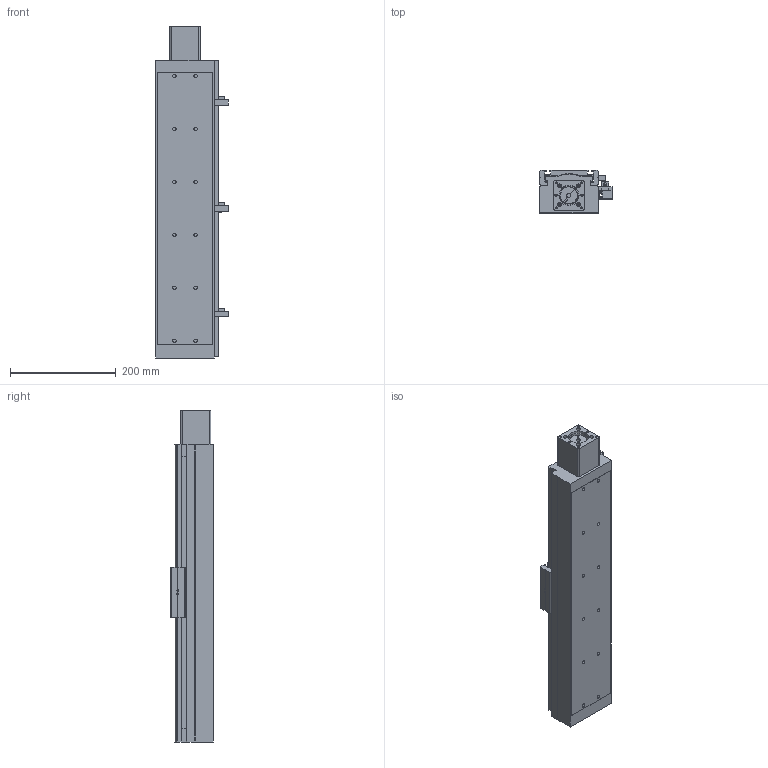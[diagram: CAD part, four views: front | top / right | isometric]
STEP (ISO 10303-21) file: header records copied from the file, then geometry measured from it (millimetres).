
FILE_DESCRIPTION((''),'2;1');
FILE_NAME('E:\libraries\UIA actuator library 2009\standard actuator\UIA110R12(15)DC\UIA110R12(15)DC-ball screw dia.16\UIA110R12(15)DC-_ _ _-R16_ _ step file 20Apr16\UIA110R12(15)DC-400-R16_ _-M23-P13-C10-S.stp','2016-04-20T16:52:56',('h029'),(''),'Autodesk Inventor 11','Autodesk Inventor 11','');
FILE_SCHEMA(('AUTOMOTIVE_DESIGN { 1 0 10303 214 1 1 1 1 }'));
Length unit declared in the file: millimetre
Products named in the file (10): UIA110R12(15)DC-400-M23, ball screw dia.16; body, UIA110R12(15)DC-400,ball screw dia.16; Carriage, UIA110R12(15)DC; Sen Switch, UIA110R12(15)DC; sensor rail, UIA110R12(15)DC-400; M23 motor mount; SOH-32C; SOH-32C-3; SOH-32C-1; SOH-32C-2
Assembly tree (9 placements, depth 3):
  UIA110R12(15)DC-400-M23, ball screw dia.16
    body, UIA110R12(15)DC-400,ball screw dia.16
    Carriage, UIA110R12(15)DC
    Sen Switch, UIA110R12(15)DC
    sensor rail, UIA110R12(15)DC-400
    M23 motor mount
    SOH-32C
      SOH-32C-3
      SOH-32C-1
      SOH-32C-2
Bounding box: 136.5 x 81 x 627 mm (x, y, z)
Volume: 4409271 mm3; surface area: 392720.5 mm2
Topology: 8 solids, 8 shells, 603 faces, 1629 edges, 1064 vertices
Faces by surface type: plane 381, cylinder 123, bspline 81, cone 18
Full cylindrical faces by diameter (mm): 2.459 x3, 3.242 x4, 4 x6, 4.5 x4, 5.5 x3, 6.35 x1, 6.5 x12, 7.5 x4, 8 x2, 9.5 x6, 10 x1, 10.5 x12, 21 x1, 32 x3, 37 x1, 38.1 x1, 42 x1, 42.01 x1, 43.5 x1
Entity records: 19444 total; most frequent: CARTESIAN_POINT 4969, DIRECTION 2901, ORIENTED_EDGE 2808, EDGE_CURVE 1404, VERTEX_POINT 991, AXIS2_PLACEMENT_3D 975, VECTOR 951, LINE 951
